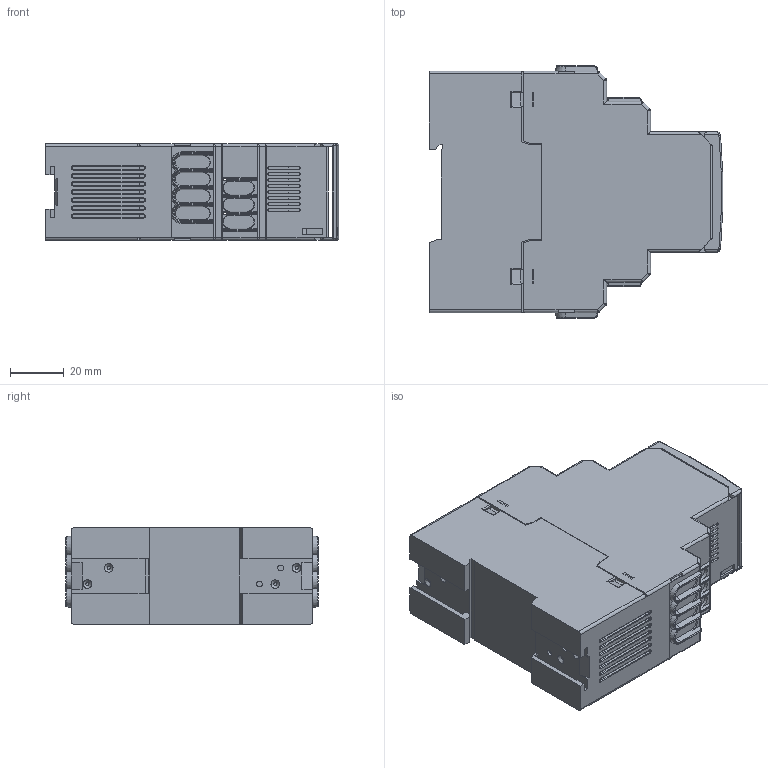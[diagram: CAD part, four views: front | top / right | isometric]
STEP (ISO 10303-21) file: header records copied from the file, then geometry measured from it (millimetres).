
FILE_DESCRIPTION(/* description */ (''),/* implementation_level */ '2;1');
FILE_NAME(/* name */ 'X:\Digidirect\CAD\Importierte Komponenten\XM420H_Z152082.01\XM420H_Z152082.01 3.stp',/* time_stamp */ '2013-10-10T11:07:26+02:00',/* author */ ('Maik Jost'),/* organization */ (''),/* preprocessor_version */ 'ST-DEVELOPER v15.2',/* originating_system */ 'Autodesk Inventor 2014',/* authorisation */ '');
FILE_SCHEMA (('CONFIG_CONTROL_DESIGN'));
Length unit declared in the file: millimetre
Products named in the file (2): XM420H_Z152082.01_Substitute_3; XM420H_Z152082.01
Bounding box: 109.39 x 94 x 36 mm (x, y, z)
Surface area: 42452.4 mm2 (no closed solid volume)
Topology: 0 solids, 3 shells, 724 faces, 2312 edges, 1541 vertices
Faces by surface type: plane 346, cylinder 234, torus 52, cone 40, bspline 36, sphere 16
Full cylindrical faces by diameter (mm): 2.2 x2
Entity records: 27023 total; most frequent: CARTESIAN_POINT 6862, DIRECTION 4254, ORIENTED_EDGE 3926, EDGE_CURVE 2294, VERTEX_POINT 1541, LINE 1460, VECTOR 1460, AXIS2_PLACEMENT_3D 1397
